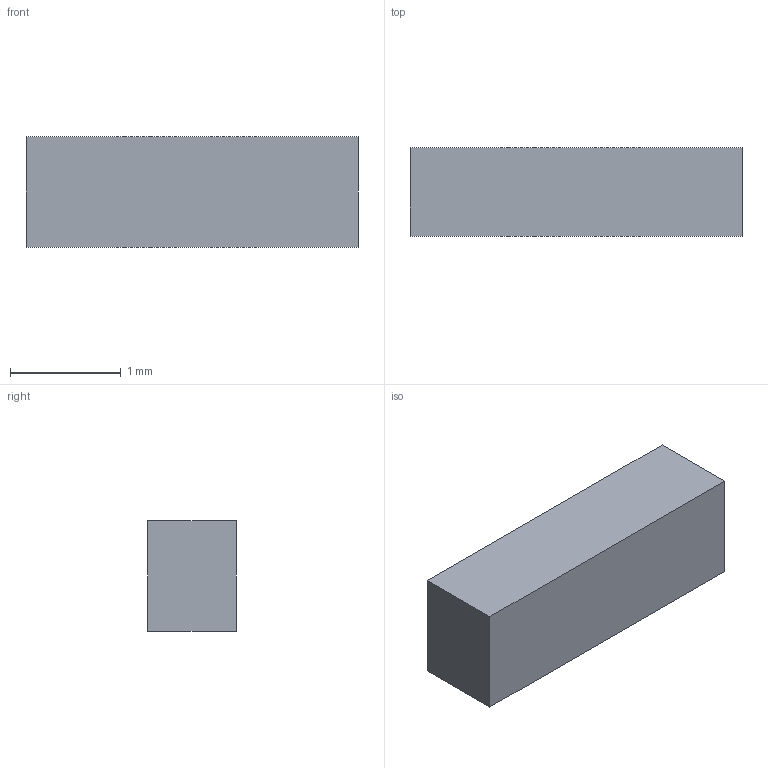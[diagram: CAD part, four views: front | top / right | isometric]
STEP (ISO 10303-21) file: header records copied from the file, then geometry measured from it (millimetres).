
FILE_DESCRIPTION(('Open CASCADE Model'),'2;1');
FILE_NAME('C27_R2_PCB_Rear_Preload_4_FREE_STATE','2026-09-09T17:52:57',( 'Author'),('Open CASCADE'),'Open CASCADE STEP processor 7.9', 'build123d','Unknown');
FILE_SCHEMA(('AUTOMOTIVE_DESIGN { 1 0 10303 214 1 1 1 1 }'));
Length unit declared in the file: millimetre
Products named in the file (1): C27_R2_PCB_Rear_Preload_4_FREE_STATE
Bounding box: 3 x 0.8 x 1 mm (x, y, z)
Volume: 2.4 mm3; surface area: 12.4 mm2
Topology: 1 solids, 1 shells, 6 faces, 12 edges, 8 vertices
Faces by surface type: plane 6
Entity records: 333 total; most frequent: CARTESIAN_POINT 51, DIRECTION 50, LINE 36, VECTOR 36, ORIENTED_EDGE 24, PCURVE 24, DEFINITIONAL_REPRESENTATION 24, EDGE_CURVE 12
